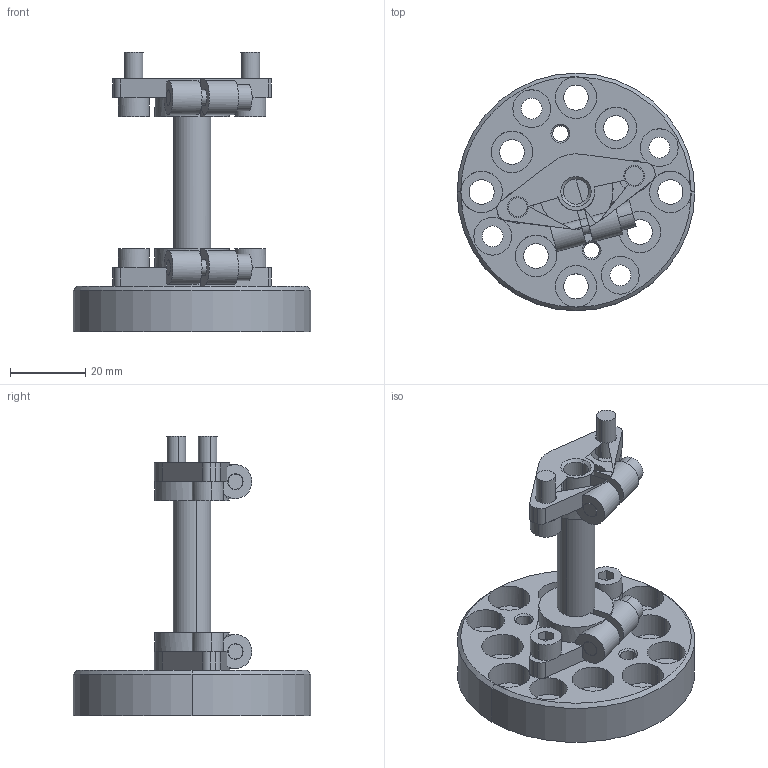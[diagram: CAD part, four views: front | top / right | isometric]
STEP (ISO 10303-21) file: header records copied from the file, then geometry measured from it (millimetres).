
FILE_DESCRIPTION (( 'STEP AP214' ), '1' );
FILE_NAME ('FCM_R02_02_02_.STEP', '2019-12-04T09:24:31', ( '微软用户' ), ( '微软中国' ), 'SwSTEP 2.0', 'SolidWorks 2016', '' );
FILE_SCHEMA (( 'AUTOMOTIVE_DESIGN' ));
Length unit declared in the file: millimetre
Products named in the file (1): FCM_R02_02_02_
Bounding box: 63 x 63 x 74 mm (x, y, z)
Volume: 40873.5 mm3; surface area: 21582.1 mm2
Topology: 2 solids, 2 shells, 290 faces, 713 edges, 457 vertices
Faces by surface type: cylinder 140, plane 124, cone 26
Entity records: 12055 total; most frequent: CARTESIAN_POINT 1615, DIRECTION 1612, ORIENTED_EDGE 1426, EDGE_CURVE 713, AXIS2_PLACEMENT_3D 624, VERTEX_POINT 457, VECTOR 364, LINE 364
